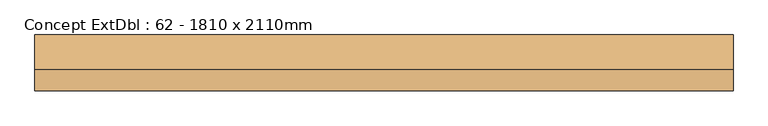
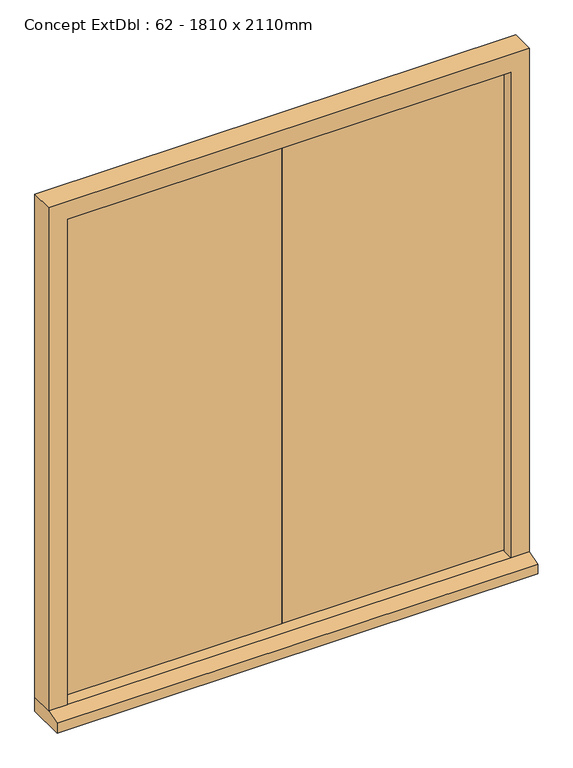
"""IFC4 building model written with IfcOpenShell, lengths in millimetres: door geometry, Concept ExtDbl : 62 - 1810 x 2110mm."""

from ifc_helpers import new_model, si_unit, frame, origin, place, context, project, spatial, polyline, outline, extrude, faceted_brep, source, transform, mapped, element, save


def concept_extdbl_62_1810_x_2110mm_d6508bf7(model_context):
    return source(origin(), model_context, "Body", "SolidModel", [
        faceted_brep([(834.5, -120.0, 54.5), (834.5, -78.0, 54.5), (856.5, -78.0, 54.5), (856.5, -31.0, 54.5), (905.0, -31.0, 54.5), (905.0, -120.0, 54.5), (905.0, -120.0, 2055.0), (-905.0, -120.0, 2055.0), (-905.0, -120.0, 54.5), (-834.5, -120.0, 54.5), (-834.5, -120.0, 1984.5), (834.5, -120.0, 1984.5), (905.0, -31.0, 2055.0), (856.5, -31.0, 2006.5), (-856.5, -31.0, 2006.5), (-856.5, -31.0, 54.5), (-905.0, -31.0, 54.5), (-905.0, -31.0, 2055.0), (856.5, -78.0, 2006.5), (834.5, -78.0, 1984.5), (-834.5, -78.0, 1984.5), (-834.5, -78.0, 54.5), (-856.5, -78.0, 54.5), (-856.5, -78.0, 2006.5)], [[[0, 1, 2, 3, 4, 5]], [[5, 6, 7, 8, 9, 10, 11, 0]], [[4, 12, 6, 5]], [[3, 13, 14, 15, 16, 17, 12, 4]], [[2, 18, 13, 3]], [[1, 19, 20, 21, 22, 23, 18, 2]], [[0, 11, 19, 1]], [[10, 9, 21, 20]], [[9, 8, 16, 15, 22, 21]], [[17, 16, 8, 7]], [[23, 22, 15, 14]], [[12, 17, 7, 6]], [[18, 23, 14, 13]], [[11, 10, 20, 19]]]),
        extrude(outline(polyline([(-31.0, 0.0), (-175.0, 0.0), (-175.0, 38.5947221), (-120.0, 54.5), (-31.0, 54.5), (-31.0, 0.0)])), frame((-905.0, 0.0, 0.0), z_axis=(1.0, 0.0, 0.0), x_axis=(0.0, 1.0, 0.0)), (0.0, 0.0, 1.0), 1810.0),
        extrude(outline(polyline([(853.5, -31.0), (853.5, -75.0), (1.5, -75.0), (1.5, -31.0), (853.5, -31.0)])), frame((0.0, 0.0, 58.5), z_axis=(0.0, 0.0, 1.0), x_axis=(1.0, 0.0, 0.0)), (0.0, 0.0, 1.0), 1945.0),
        extrude(outline(polyline([(-1.5, -31.0), (-1.5, -75.0), (-853.5, -75.0), (-853.5, -31.0), (-1.5, -31.0)])), frame((0.0, 0.0, 58.5), z_axis=(0.0, 0.0, 1.0), x_axis=(1.0, 0.0, 0.0)), (0.0, 0.0, 1.0), 1945.0),
    ])


if __name__ == "__main__":
    model = new_model("IFC4")
    model_context = context("Model", 3, world=origin())
    ifc_project = project(units=[si_unit("LENGTHUNIT", "METRE", prefix="MILLI")], contexts=[model_context])
    site = spatial("IfcSite", under=ifc_project)
    building = spatial("IfcBuilding", under=site)
    placement = place(None, origin())
    concept_extdbl_62_1810_x_2110mm_shape = concept_extdbl_62_1810_x_2110mm_d6508bf7(model_context)
    element("IfcDoor", 1, ObjectType="Concept ExtDbl : 62 - 1810 x 2110mm", at=placement, inside=building, context=model_context, shape_type="MappedRepresentation", body=[
        mapped(concept_extdbl_62_1810_x_2110mm_shape, transform((0.0, 0.0, 0.0), x_axis=(1.0, 0.0, 0.0), y_axis=(0.0, 1.0, 0.0), z_axis=(0.0, 0.0, 1.0))),
    ])
    save(model, "model.ifc")
